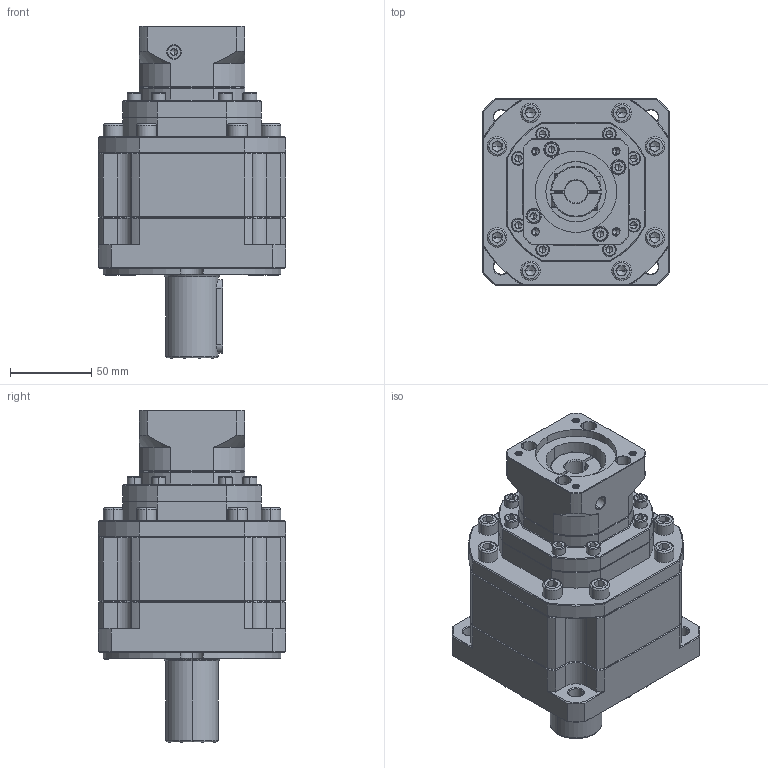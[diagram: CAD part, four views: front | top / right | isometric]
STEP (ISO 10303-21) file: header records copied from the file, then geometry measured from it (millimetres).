
FILE_DESCRIPTION (( 'STEP AP214' ), '1' );
FILE_NAME ('ZB115A-D32-L3-P2-14-50-70-M5.step', '2023-08-26T10:32:52', ( '' ), ( '' ), 'SwSTEP 2.0', 'SolidWorks 2016', '' );
FILE_SCHEMA (( 'AUTOMOTIVE_DESIGN' ));
Length unit declared in the file: millimetre
Products named in the file (1): ZB115A-D32-L3-P2-14-50-70-M5
Bounding box: 115 x 115 x 204 mm (x, y, z)
Volume: 1310027.6 mm3; surface area: 123450.9 mm2
Topology: 7 solids, 7 shells, 2560 faces, 6741 edges, 4295 vertices
Faces by surface type: plane 1306, cylinder 446, bspline 443, cone 343, torus 22
Entity records: 133268 total; most frequent: CARTESIAN_POINT 45440, ORIENTED_EDGE 13358, DIRECTION 10782, EDGE_CURVE 6679, VERTEX_POINT 4295, VECTOR 4280, LINE 4280, AXIS2_PLACEMENT_3D 3251
